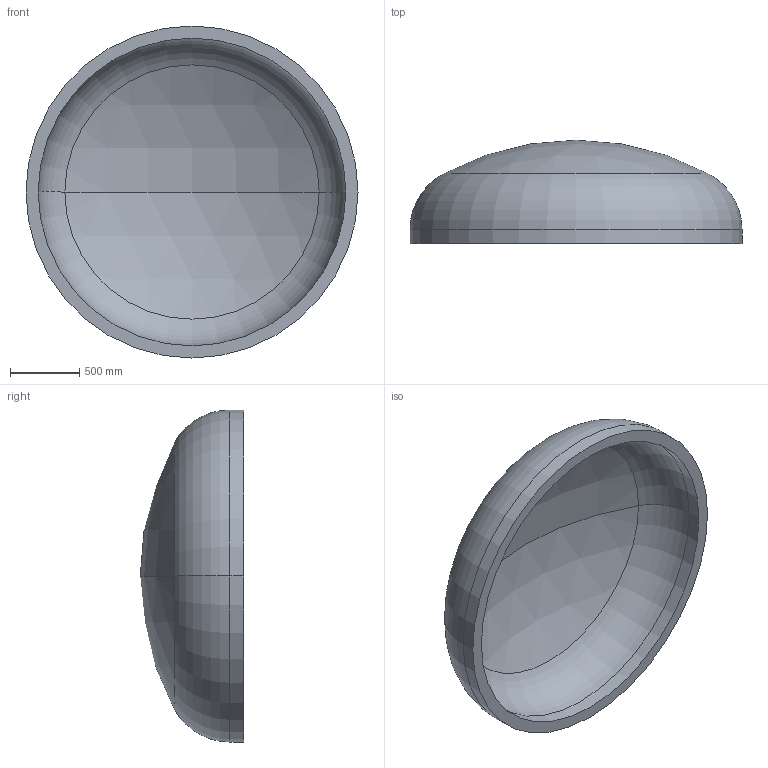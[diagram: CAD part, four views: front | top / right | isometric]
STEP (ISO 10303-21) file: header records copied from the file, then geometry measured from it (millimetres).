
FILE_DESCRIPTION (( 'STEP AP203' ), '1' );
FILE_NAME ('DIN 28013 Korbbogenform_-_Boden DIN 28013 - 2400 x 100 - I - s=88.step', '2016-07-01T15:38:21', ( '' ), ( '' ), 'SwSTEP 2.0', 'SolidWorks 2013', '' );
FILE_SCHEMA (( 'CONFIG_CONTROL_DESIGN' ));
Length unit declared in the file: millimetre
Products named in the file (1): DIN 28013 Korbbogenform_-_Boden DIN 28013 - 2400 x 100 - I - s=88
Bounding box: 2400 x 747.14 x 2400 mm (x, y, z)
Volume: 589747899.5 mm3; surface area: 14058752.1 mm2
Topology: 1 solids, 1 shells, 13 faces, 24 edges, 14 vertices
Faces by surface type: torus 4, cylinder 4, sphere 4, plane 1
Entity records: 407 total; most frequent: DIRECTION 72, CARTESIAN_POINT 52, ORIENTED_EDGE 48, AXIS2_PLACEMENT_3D 34, EDGE_CURVE 24, CIRCLE 20, VERTEX_POINT 14, EDGE_LOOP 14
